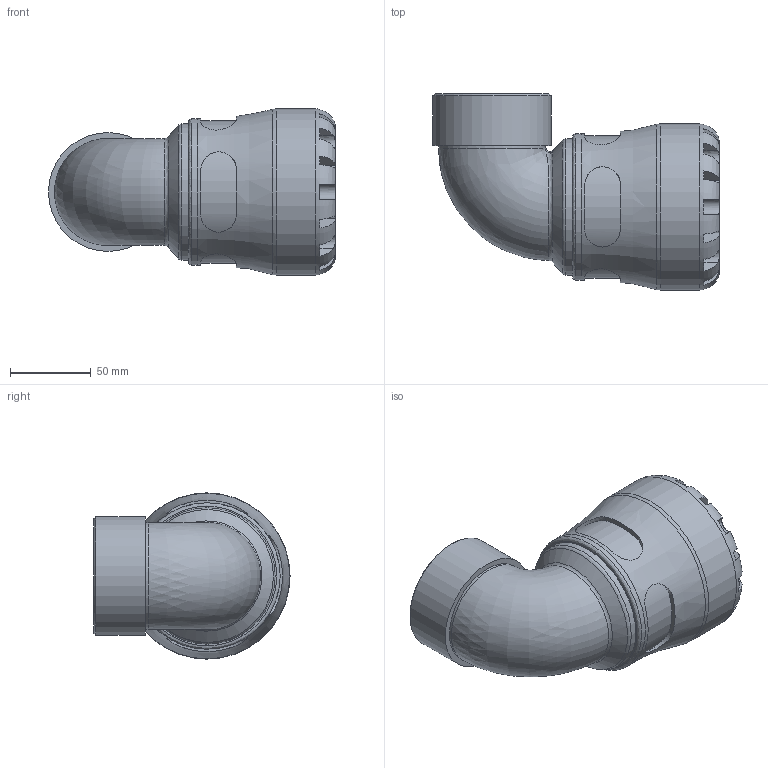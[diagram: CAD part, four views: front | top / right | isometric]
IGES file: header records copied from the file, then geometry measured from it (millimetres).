
Global section: file name: 101500063020_191500063020.ipt; native system: Autodesk Inventor 2015; preprocessor: unknown; author: KIM; date: 20170730.115230; units: millimetre
Bounding box: 177.83 x 121.5 x 103 mm (x, y, z)
Volume: 557623.1 mm3; surface area: 99003.4 mm2
Topology: 1 solids, 1 shells, 111 faces, 283 edges, 181 vertices
Faces by surface type: plane 62, revolution 28, cylinder 17, bspline 2, cone 2
Full cylindrical faces by diameter (mm): 66.288 x1, 73.653 x1, 84.46 x1, 90.64 x1, 103 x1
